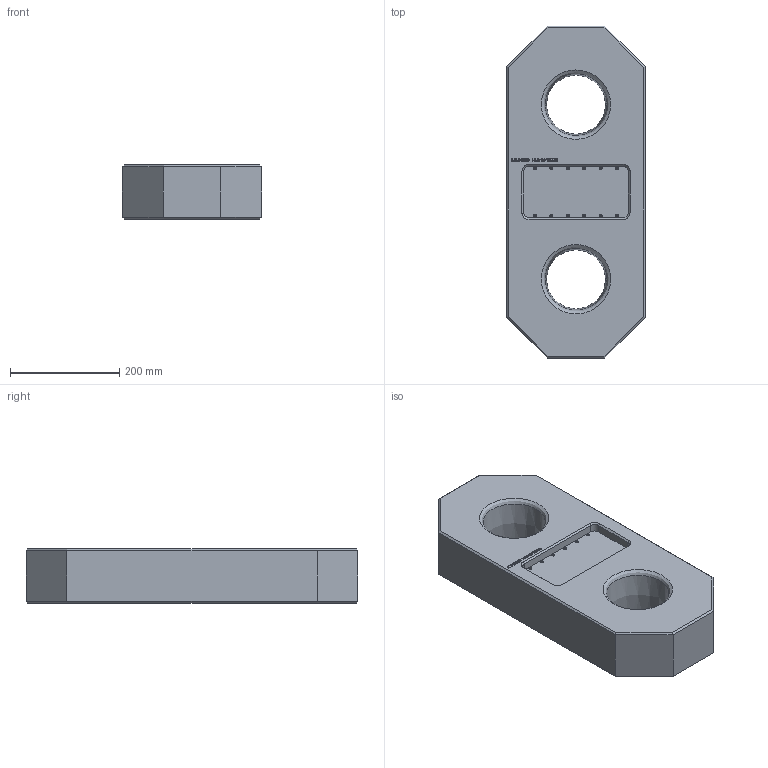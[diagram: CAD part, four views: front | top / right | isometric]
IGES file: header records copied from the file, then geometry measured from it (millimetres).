
Global section: file name: RLP100T; native system: Autodesk Inventor 2016; preprocessor: unknown; author: rdivakaran; date: 20180811.132210; units: metre
Bounding box: 255 x 608 x 99 mm (x, y, z)
Volume: 11642446.4 mm3; surface area: 486436.3 mm2
Topology: 1 solids, 1 shells, 1045 faces, 2918 edges, 1970 vertices
Faces by surface type: bspline 1045
